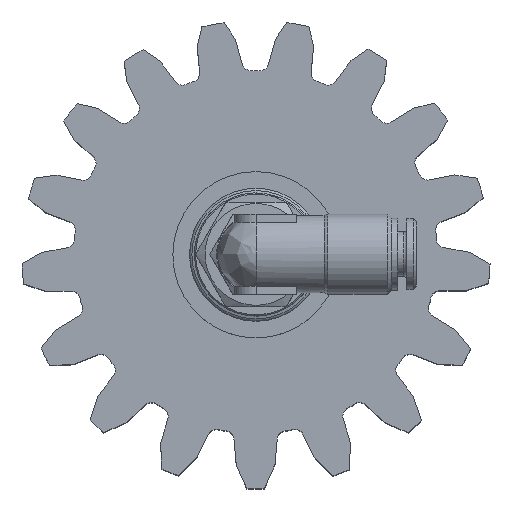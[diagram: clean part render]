
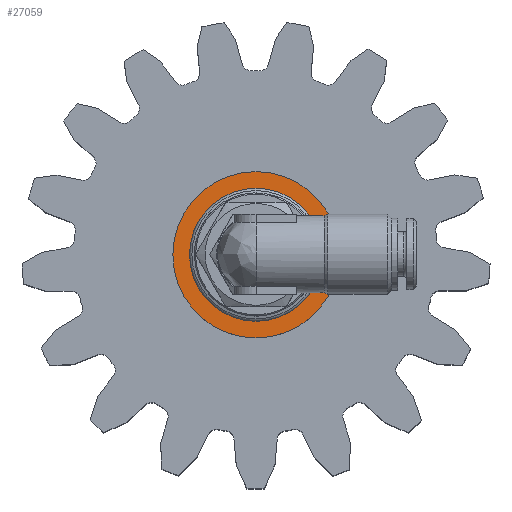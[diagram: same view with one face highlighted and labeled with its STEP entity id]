
A CAD part, top view. The second image highlights one B-rep face of the part: STEP entity #27059.
In plain terms, the highlighted planar face has unit normal (0, 0, 1) as drawn and (0, 1, 0) by its records, which use the part's own axes.
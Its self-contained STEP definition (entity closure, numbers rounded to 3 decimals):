
#1431 = CARTESIAN_POINT ( 'NONE',  ( 0., 0.6, 0. ) ) ;
#1849 = PLANE ( 'NONE',  #16201 ) ;
#2190 = EDGE_CURVE ( 'NONE', #17388, #17388, #4367, .T. ) ;
#4159 = EDGE_LOOP ( 'NONE', ( #13367 ) ) ;
#4367 = CIRCLE ( 'NONE', #20670, 13.5 ) ;
#5668 = DIRECTION ( 'NONE',  ( 0., 1., 0. ) ) ;
#7131 = VERTEX_POINT ( 'NONE', #11662 ) ;
#7929 = EDGE_CURVE ( 'NONE', #7131, #7131, #24052, .T. ) ;
#8746 = FACE_OUTER_BOUND ( 'NONE', #4159, .T. ) ;
#11662 = CARTESIAN_POINT ( 'NONE',  ( 0., 0.6, 10.8 ) ) ;
#11930 = DIRECTION ( 'NONE',  ( 0., 0., 1. ) ) ;
#12286 = DIRECTION ( 'NONE',  ( 0., 1., 0. ) ) ;
#13367 = ORIENTED_EDGE ( 'NONE', *, *, #2190, .T. ) ;
#15742 = CARTESIAN_POINT ( 'NONE',  ( 0., 0.6, 13.5 ) ) ;
#16201 = AXIS2_PLACEMENT_3D ( 'NONE', #24364, #22053, #17533 ) ;
#16519 = DIRECTION ( 'NONE',  ( 0., 0., 1. ) ) ;
#17388 = VERTEX_POINT ( 'NONE', #15742 ) ;
#17533 = DIRECTION ( 'NONE',  ( 0., 0., -1. ) ) ;
#20670 = AXIS2_PLACEMENT_3D ( 'NONE', #25384, #5668, #11930 ) ;
#22053 = DIRECTION ( 'NONE',  ( 0., -1., 0. ) ) ;
#23960 = FACE_BOUND ( 'NONE', #26073, .T. ) ;
#24052 = CIRCLE ( 'NONE', #28292, 10.8 ) ;
#24364 = CARTESIAN_POINT ( 'NONE',  ( 13.5, 0.6, 0. ) ) ;
#25384 = CARTESIAN_POINT ( 'NONE',  ( 0., 0.6, 0. ) ) ;
#26073 = EDGE_LOOP ( 'NONE', ( #28477 ) ) ;
#27059 = ADVANCED_FACE ( 'NONE', ( #23960, #8746 ), #1849, .F. ) ;
#28292 = AXIS2_PLACEMENT_3D ( 'NONE', #1431, #12286, #16519 ) ;
#28477 = ORIENTED_EDGE ( 'NONE', *, *, #7929, .F. ) ;
